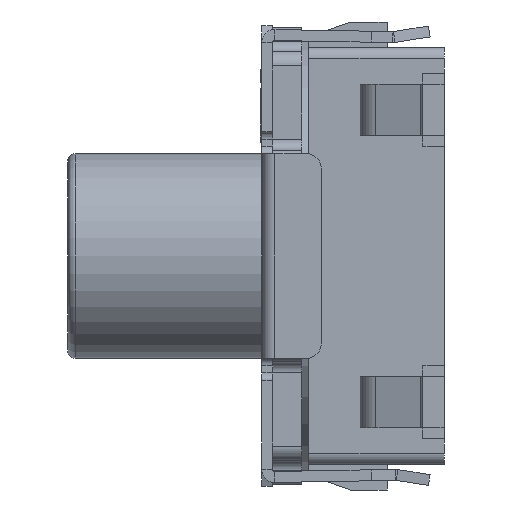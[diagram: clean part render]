
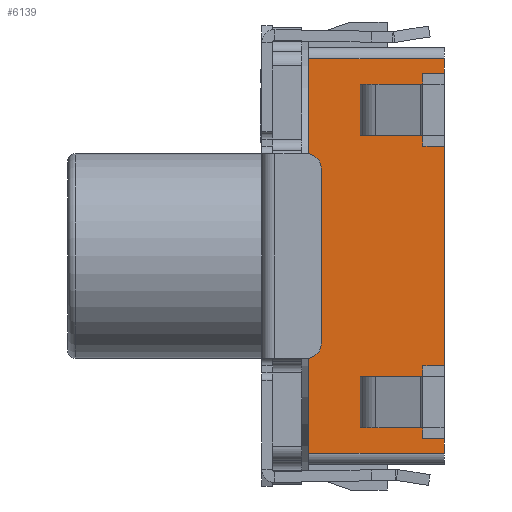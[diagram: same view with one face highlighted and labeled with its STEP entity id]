
A CAD part, left-side view. The second image highlights one B-rep face of the part: STEP entity #6139.
In plain terms, the highlighted planar face has unit normal (-1, 0, 0).
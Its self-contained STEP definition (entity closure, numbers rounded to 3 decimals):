
#33=DIRECTION('',(0.,0.,-1.));
#34=VECTOR('',#33,3.);
#35=CARTESIAN_POINT('',(-55.433,26.989,2.351));
#36=LINE('',#35,#34);
#37=DIRECTION('',(0.,-1.,0.));
#38=VECTOR('',#37,0.29);
#39=CARTESIAN_POINT('',(-55.433,27.279,-1.649));
#40=LINE('',#39,#38);
#41=DIRECTION('',(0.,0.,-1.));
#42=VECTOR('',#41,0.2);
#43=CARTESIAN_POINT('',(-55.433,26.989,-1.649));
#44=LINE('',#43,#42);
#45=DIRECTION('',(0.,0.,-1.));
#46=VECTOR('',#45,0.2);
#47=CARTESIAN_POINT('',(-55.433,26.989,3.551));
#48=LINE('',#47,#46);
#49=DIRECTION('',(0.,0.,1.));
#50=VECTOR('',#49,0.7);
#51=CARTESIAN_POINT('',(-55.433,28.139,2.501));
#52=LINE('',#51,#50);
#61=DIRECTION('',(0.,-1.,0.));
#62=VECTOR('',#61,0.3);
#63=CARTESIAN_POINT('',(-55.433,28.139,3.201));
#64=LINE('',#63,#62);
#121=DIRECTION('',(0.,1.,0.));
#122=VECTOR('',#121,0.56);
#123=CARTESIAN_POINT('',(-55.433,27.279,2.501));
#124=LINE('',#123,#122);
#3105=DIRECTION('',(0.,0.,-1.));
#3106=VECTOR('',#3105,5.4);
#3107=CARTESIAN_POINT('',(-55.433,28.839,3.551));
#3108=LINE('',#3107,#3106);
#3294=DIRECTION('',(0.,-1.,0.));
#3295=VECTOR('',#3294,1.85);
#3296=CARTESIAN_POINT('',(-55.433,28.839,
-1.849));
#3297=LINE('',#3296,#3295);
#3306=DIRECTION('',(0.,1.,0.));
#3307=VECTOR('',#3306,1.85);
#3308=CARTESIAN_POINT('',(-55.433,26.989,3.551));
#3309=LINE('',#3308,#3307);
#3394=DIRECTION('',(0.,-1.,0.));
#3395=VECTOR('',#3394,0.56);
#3396=CARTESIAN_POINT('',(-55.433,27.839,
-0.799));
#3397=LINE('',#3396,#3395);
#3438=DIRECTION('',(0.,0.,1.));
#3439=VECTOR('',#3438,0.15);
#3440=CARTESIAN_POINT('',(-55.433,27.279,
-0.799));
#3441=LINE('',#3440,#3439);
#3446=DIRECTION('',(0.,0.,1.));
#3447=VECTOR('',#3446,0.15);
#3448=CARTESIAN_POINT('',(-55.433,27.279,
-1.649));
#3449=LINE('',#3448,#3447);
#3466=DIRECTION('',(0.,-1.,0.));
#3467=VECTOR('',#3466,0.29);
#3468=CARTESIAN_POINT('',(-55.433,27.279,
-0.649));
#3469=LINE('',#3468,#3467);
#3518=DIRECTION('',(0.,1.,0.));
#3519=VECTOR('',#3518,0.56);
#3520=CARTESIAN_POINT('',(-55.433,27.279,
-1.499));
#3521=LINE('',#3520,#3519);
#3534=DIRECTION('',(0.,1.,0.));
#3535=VECTOR('',#3534,0.3);
#3536=CARTESIAN_POINT('',(-55.433,27.839,
-1.499));
#3537=LINE('',#3536,#3535);
#3554=DIRECTION('',(0.,0.,1.));
#3555=VECTOR('',#3554,0.7);
#3556=CARTESIAN_POINT('',(-55.433,28.139,
-1.499));
#3557=LINE('',#3556,#3555);
#3562=DIRECTION('',(0.,-1.,0.));
#3563=VECTOR('',#3562,0.3);
#3564=CARTESIAN_POINT('',(-55.433,28.139,
-0.799));
#3565=LINE('',#3564,#3563);
#3966=DIRECTION('',(0.,-1.,0.));
#3967=VECTOR('',#3966,0.56);
#3968=CARTESIAN_POINT('',(-55.433,27.839,3.201));
#3969=LINE('',#3968,#3967);
#3978=DIRECTION('',(0.,0.,1.));
#3979=VECTOR('',#3978,0.15);
#3980=CARTESIAN_POINT('',(-55.433,27.279,3.201));
#3981=LINE('',#3980,#3979);
#3982=DIRECTION('',(0.,0.,1.));
#3983=VECTOR('',#3982,0.15);
#3984=CARTESIAN_POINT('',(-55.433,27.279,2.351));
#3985=LINE('',#3984,#3983);
#4010=DIRECTION('',(0.,-1.,0.));
#4011=VECTOR('',#4010,0.29);
#4012=CARTESIAN_POINT('',(-55.433,27.279,3.351));
#4013=LINE('',#4012,#4011);
#4022=DIRECTION('',(0.,1.,0.));
#4023=VECTOR('',#4022,0.29);
#4024=CARTESIAN_POINT('',(-55.433,26.989,2.351));
#4025=LINE('',#4024,#4023);
#4226=DIRECTION('',(0.,1.,0.));
#4227=VECTOR('',#4226,0.3);
#4228=CARTESIAN_POINT('',(-55.433,27.839,2.501));
#4229=LINE('',#4228,#4227);
#5211=CARTESIAN_POINT('',(-55.433,26.989,
-1.649));
#5213=VERTEX_POINT('',#5211);
#5216=CARTESIAN_POINT('',(-55.433,26.989,
-0.649));
#5217=VERTEX_POINT('',#5216);
#5218=CARTESIAN_POINT('',(-55.433,26.989,2.351));
#5219=VERTEX_POINT('',#5218);
#5222=CARTESIAN_POINT('',(-55.433,26.989,3.351));
#5223=VERTEX_POINT('',#5222);
#5224=CARTESIAN_POINT('',(-55.433,26.989,3.551));
#5225=VERTEX_POINT('',#5224);
#5254=CARTESIAN_POINT('',(-55.433,26.989,
-1.849));
#5255=VERTEX_POINT('',#5254);
#5297=CARTESIAN_POINT('',(-55.433,27.279,
-1.649));
#5299=VERTEX_POINT('',#5297);
#5304=CARTESIAN_POINT('',(-55.433,27.279,
-1.499));
#5305=VERTEX_POINT('',#5304);
#5306=CARTESIAN_POINT('',(-55.433,28.839,3.551));
#5307=CARTESIAN_POINT('',(-55.433,28.839,
-1.849));
#5308=VERTEX_POINT('',#5306);
#5309=VERTEX_POINT('',#5307);
#5310=CARTESIAN_POINT('',(-55.433,27.279,3.201));
#5311=CARTESIAN_POINT('',(-55.433,27.279,3.351));
#5312=VERTEX_POINT('',#5310);
#5313=VERTEX_POINT('',#5311);
#5314=CARTESIAN_POINT('',(-55.433,27.279,2.351));
#5315=CARTESIAN_POINT('',(-55.433,27.279,2.501));
#5316=VERTEX_POINT('',#5314);
#5317=VERTEX_POINT('',#5315);
#5318=CARTESIAN_POINT('',(-55.433,27.279,
-0.799));
#5319=CARTESIAN_POINT('',(-55.433,27.279,
-0.649));
#5320=VERTEX_POINT('',#5318);
#5321=VERTEX_POINT('',#5319);
#5697=CARTESIAN_POINT('',(-55.433,27.839,2.501));
#5699=VERTEX_POINT('',#5697);
#5700=CARTESIAN_POINT('',(-55.433,27.839,3.201));
#5702=VERTEX_POINT('',#5700);
#5710=CARTESIAN_POINT('',(-55.433,28.139,2.501));
#5711=CARTESIAN_POINT('',(-55.433,28.139,3.201));
#5712=VERTEX_POINT('',#5710);
#5713=VERTEX_POINT('',#5711);
#5716=CARTESIAN_POINT('',(-55.433,28.139,
-1.499));
#5717=CARTESIAN_POINT('',(-55.433,28.139,
-0.799));
#5718=VERTEX_POINT('',#5716);
#5719=VERTEX_POINT('',#5717);
#5724=CARTESIAN_POINT('',(-55.433,27.839,
-1.499));
#5725=VERTEX_POINT('',#5724);
#5728=CARTESIAN_POINT('',(-55.433,27.839,
-0.799));
#5729=VERTEX_POINT('',#5728);
#6088=CARTESIAN_POINT('',(-55.433,27.914,
0.851));
#6089=DIRECTION('',(1.,0.,0.));
#6090=DIRECTION('',(0.,0.,-1.));
#6091=AXIS2_PLACEMENT_3D('',#6088,#6089,#6090);
#6092=PLANE('',#6091);
#6094=ORIENTED_EDGE('',*,*,#6093,.F.);
#6096=ORIENTED_EDGE('',*,*,#6095,.F.);
#6098=ORIENTED_EDGE('',*,*,#6097,.F.);
#6100=ORIENTED_EDGE('',*,*,#6099,.F.);
#6102=ORIENTED_EDGE('',*,*,#6101,.F.);
#6103=ORIENTED_EDGE('',*,*,#5975,.T.);
#6105=ORIENTED_EDGE('',*,*,#6104,.F.);
#6107=ORIENTED_EDGE('',*,*,#6106,.F.);
#6109=ORIENTED_EDGE('',*,*,#6108,.F.);
#6111=ORIENTED_EDGE('',*,*,#6110,.F.);
#6113=ORIENTED_EDGE('',*,*,#6112,.F.);
#6115=ORIENTED_EDGE('',*,*,#6114,.F.);
#6117=ORIENTED_EDGE('',*,*,#6116,.F.);
#6119=ORIENTED_EDGE('',*,*,#6118,.F.);
#6120=ORIENTED_EDGE('',*,*,#6075,.T.);
#6121=ORIENTED_EDGE('',*,*,#6015,.T.);
#6123=ORIENTED_EDGE('',*,*,#6122,.F.);
#6125=ORIENTED_EDGE('',*,*,#6124,.F.);
#6127=ORIENTED_EDGE('',*,*,#6126,.F.);
#6128=ORIENTED_EDGE('',*,*,#5983,.T.);
#6130=ORIENTED_EDGE('',*,*,#6129,.F.);
#6132=ORIENTED_EDGE('',*,*,#6131,.F.);
#6134=ORIENTED_EDGE('',*,*,#6133,.F.);
#6136=ORIENTED_EDGE('',*,*,#6135,.F.);
#6137=EDGE_LOOP('',(#6094,#6096,#6098,#6100,#6102,#6103,#6105,#6107,#6109,#6111,
#6113,#6115,#6117,#6119,#6120,#6121,#6123,#6125,#6127,#6128,#6130,#6132,#6134,
#6136));
#6138=FACE_OUTER_BOUND('',#6137,.F.);
#5975=EDGE_CURVE('',#5219,#5217,#36,.T.);
#5983=EDGE_CURVE('',#5225,#5223,#48,.T.);
#6015=EDGE_CURVE('',#5213,#5255,#44,.T.);
#6075=EDGE_CURVE('',#5299,#5213,#40,.T.);
#6093=EDGE_CURVE('',#5712,#5713,#52,.T.);
#6095=EDGE_CURVE('',#5699,#5712,#4229,.T.);
#6097=EDGE_CURVE('',#5317,#5699,#124,.T.);
#6099=EDGE_CURVE('',#5316,#5317,#3985,.T.);
#6101=EDGE_CURVE('',#5219,#5316,#4025,.T.);
#6104=EDGE_CURVE('',#5321,#5217,#3469,.T.);
#6106=EDGE_CURVE('',#5320,#5321,#3441,.T.);
#6108=EDGE_CURVE('',#5729,#5320,#3397,.T.);
#6110=EDGE_CURVE('',#5719,#5729,#3565,.T.);
#6112=EDGE_CURVE('',#5718,#5719,#3557,.T.);
#6114=EDGE_CURVE('',#5725,#5718,#3537,.T.);
#6116=EDGE_CURVE('',#5305,#5725,#3521,.T.);
#6118=EDGE_CURVE('',#5299,#5305,#3449,.T.);
#6122=EDGE_CURVE('',#5309,#5255,#3297,.T.);
#6124=EDGE_CURVE('',#5308,#5309,#3108,.T.);
#6126=EDGE_CURVE('',#5225,#5308,#3309,.T.);
#6129=EDGE_CURVE('',#5313,#5223,#4013,.T.);
#6131=EDGE_CURVE('',#5312,#5313,#3981,.T.);
#6133=EDGE_CURVE('',#5702,#5312,#3969,.T.);
#6135=EDGE_CURVE('',#5713,#5702,#64,.T.);
#6139=ADVANCED_FACE('',(#6138),#6092,.F.);
